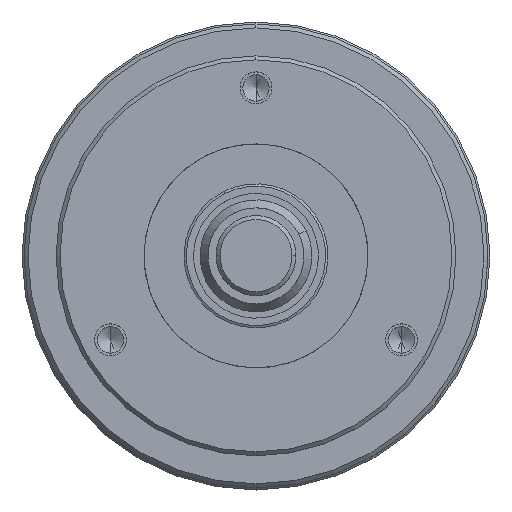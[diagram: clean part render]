
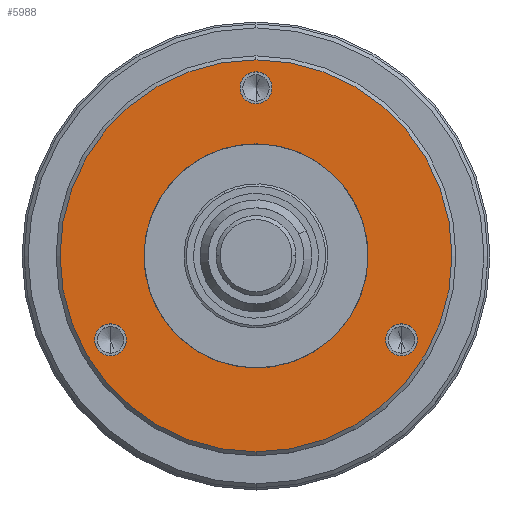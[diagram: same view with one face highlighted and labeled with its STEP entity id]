
A CAD part, top view. The second image highlights one B-rep face of the part: STEP entity #5988.
In plain terms, the highlighted planar face has unit normal (0, 0, 1).
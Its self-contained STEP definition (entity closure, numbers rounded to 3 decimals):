
#91 = DIRECTION ( 'NONE',  ( 0., 0., 1. ) ) ;
#209 = DIRECTION ( 'NONE',  ( 0., -1., 0. ) ) ;
#229 = DIRECTION ( 'NONE',  ( 0., 1., 0. ) ) ;
#256 = CARTESIAN_POINT ( 'NONE',  ( -18.187, -8.5, 0. ) ) ;
#275 = CIRCLE ( 'NONE', #2741, 14. ) ;
#412 = CIRCLE ( 'NONE', #7805, 24.5 ) ;
#430 = ORIENTED_EDGE ( 'NONE', *, *, #6214, .F. ) ;
#638 = DIRECTION ( 'NONE',  ( 0., -1., 0. ) ) ;
#751 = CARTESIAN_POINT ( 'NONE',  ( 0., 0., 0. ) ) ;
#893 = VERTEX_POINT ( 'NONE', #12119 ) ;
#1257 = CARTESIAN_POINT ( 'NONE',  ( 0., 24.5, 0. ) ) ;
#1272 = FACE_OUTER_BOUND ( 'NONE', #9454, .T. ) ;
#1308 = CARTESIAN_POINT ( 'NONE',  ( 18.187, -10.5, 0. ) ) ;
#1794 = EDGE_CURVE ( 'NONE', #7787, #20449, #4365, .T. ) ;
#2320 = AXIS2_PLACEMENT_3D ( 'NONE', #1308, #12545, #2905 ) ;
#2353 = DIRECTION ( 'NONE',  ( 0., 1., 0. ) ) ;
#2716 = EDGE_CURVE ( 'NONE', #20031, #4901, #12343, .T. ) ;
#2741 = AXIS2_PLACEMENT_3D ( 'NONE', #16385, #6740, #18018 ) ;
#2872 = CIRCLE ( 'NONE', #16990, 24.5 ) ;
#2905 = DIRECTION ( 'NONE',  ( 0., 1., 0. ) ) ;
#3112 = DIRECTION ( 'NONE',  ( 0., 0., 1. ) ) ;
#3129 = AXIS2_PLACEMENT_3D ( 'NONE', #19119, #9470, #20720 ) ;
#3677 = EDGE_LOOP ( 'NONE', ( #11132, #13255 ) ) ;
#3771 = EDGE_CURVE ( 'NONE', #11583, #893, #13044, .T. ) ;
#4365 = CIRCLE ( 'NONE', #13357, 2. ) ;
#4457 = AXIS2_PLACEMENT_3D ( 'NONE', #12753, #3112, #14363 ) ;
#4660 = ORIENTED_EDGE ( 'NONE', *, *, #1794, .F. ) ;
#4901 = VERTEX_POINT ( 'NONE', #14750 ) ;
#5472 = VERTEX_POINT ( 'NONE', #1257 ) ;
#5547 = FACE_BOUND ( 'NONE', #3677, .T. ) ;
#5988 = ADVANCED_FACE ( 'NONE', ( #1272, #13588, #5547, #9324, #17888 ), #11795, .F. ) ;
#6214 = EDGE_CURVE ( 'NONE', #20449, #7787, #13808, .T. ) ;
#6398 = CARTESIAN_POINT ( 'NONE',  ( 0., -24.5, 0. ) ) ;
#6740 = DIRECTION ( 'NONE',  ( 0., 0., 1. ) ) ;
#7033 = EDGE_CURVE ( 'NONE', #4901, #20031, #20466, .T. ) ;
#7295 = CARTESIAN_POINT ( 'NONE',  ( 18.187, -12.5, 0. ) ) ;
#7386 = CARTESIAN_POINT ( 'NONE',  ( -18.187, -10.5, 0. ) ) ;
#7787 = VERTEX_POINT ( 'NONE', #13440 ) ;
#7805 = AXIS2_PLACEMENT_3D ( 'NONE', #19490, #9839, #209 ) ;
#7816 = AXIS2_PLACEMENT_3D ( 'NONE', #751, #11974, #2353 ) ;
#8442 = AXIS2_PLACEMENT_3D ( 'NONE', #19511, #9864, #229 ) ;
#8475 = CARTESIAN_POINT ( 'NONE',  ( 0., 21., 0. ) ) ;
#8810 = ORIENTED_EDGE ( 'NONE', *, *, #3771, .F. ) ;
#8959 = EDGE_CURVE ( 'NONE', #893, #11583, #275, .T. ) ;
#9010 = DIRECTION ( 'NONE',  ( 0., 1., 0. ) ) ;
#9089 = VERTEX_POINT ( 'NONE', #7295 ) ;
#9221 = CIRCLE ( 'NONE', #2320, 2. ) ;
#9324 = FACE_BOUND ( 'NONE', #19203, .T. ) ;
#9454 = EDGE_LOOP ( 'NONE', ( #10166, #19917 ) ) ;
#9470 = DIRECTION ( 'NONE',  ( 0., 0., 1. ) ) ;
#9712 = CARTESIAN_POINT ( 'NONE',  ( 0., 0., 0. ) ) ;
#9839 = DIRECTION ( 'NONE',  ( 0., 0., 1. ) ) ;
#9864 = DIRECTION ( 'NONE',  ( 0., 0., 1. ) ) ;
#10085 = DIRECTION ( 'NONE',  ( 0., 1., 0. ) ) ;
#10166 = ORIENTED_EDGE ( 'NONE', *, *, #14439, .T. ) ;
#10269 = DIRECTION ( 'NONE',  ( 0., 0., -1. ) ) ;
#10695 = VERTEX_POINT ( 'NONE', #6398 ) ;
#10958 = CARTESIAN_POINT ( 'NONE',  ( 0., 19., 0. ) ) ;
#11132 = ORIENTED_EDGE ( 'NONE', *, *, #7033, .F. ) ;
#11316 = DIRECTION ( 'NONE',  ( 0., -1., 0. ) ) ;
#11492 = AXIS2_PLACEMENT_3D ( 'NONE', #19905, #10269, #638 ) ;
#11583 = VERTEX_POINT ( 'NONE', #12255 ) ;
#11795 = PLANE ( 'NONE',  #11492 ) ;
#11974 = DIRECTION ( 'NONE',  ( 0., 0., 1. ) ) ;
#12119 = CARTESIAN_POINT ( 'NONE',  ( 0., -14., 0. ) ) ;
#12255 = CARTESIAN_POINT ( 'NONE',  ( 0., 14., 0. ) ) ;
#12343 = CIRCLE ( 'NONE', #13036, 2. ) ;
#12363 = ORIENTED_EDGE ( 'NONE', *, *, #17995, .F. ) ;
#12545 = DIRECTION ( 'NONE',  ( 0., 0., 1. ) ) ;
#12753 = CARTESIAN_POINT ( 'NONE',  ( 18.187, -10.5, 0. ) ) ;
#13036 = AXIS2_PLACEMENT_3D ( 'NONE', #8475, #19720, #10085 ) ;
#13044 = CIRCLE ( 'NONE', #7816, 14. ) ;
#13255 = ORIENTED_EDGE ( 'NONE', *, *, #2716, .F. ) ;
#13357 = AXIS2_PLACEMENT_3D ( 'NONE', #7386, #18647, #9010 ) ;
#13440 = CARTESIAN_POINT ( 'NONE',  ( -18.187, -12.5, 0. ) ) ;
#13526 = ORIENTED_EDGE ( 'NONE', *, *, #8959, .F. ) ;
#13588 = FACE_BOUND ( 'NONE', #17240, .T. ) ;
#13725 = ORIENTED_EDGE ( 'NONE', *, *, #17708, .F. ) ;
#13769 = EDGE_CURVE ( 'NONE', #5472, #10695, #412, .T. ) ;
#13808 = CIRCLE ( 'NONE', #3129, 2. ) ;
#14363 = DIRECTION ( 'NONE',  ( 0., 1., 0. ) ) ;
#14439 = EDGE_CURVE ( 'NONE', #10695, #5472, #2872, .T. ) ;
#14750 = CARTESIAN_POINT ( 'NONE',  ( 0., 23., 0. ) ) ;
#15626 = CARTESIAN_POINT ( 'NONE',  ( 18.187, -8.5, 0. ) ) ;
#16263 = CIRCLE ( 'NONE', #4457, 2. ) ;
#16385 = CARTESIAN_POINT ( 'NONE',  ( 0., 0., 0. ) ) ;
#16990 = AXIS2_PLACEMENT_3D ( 'NONE', #9712, #91, #11316 ) ;
#17240 = EDGE_LOOP ( 'NONE', ( #12363, #13725 ) ) ;
#17708 = EDGE_CURVE ( 'NONE', #9089, #19502, #9221, .T. ) ;
#17888 = FACE_BOUND ( 'NONE', #18555, .T. ) ;
#17995 = EDGE_CURVE ( 'NONE', #19502, #9089, #16263, .T. ) ;
#18018 = DIRECTION ( 'NONE',  ( 0., 1., 0. ) ) ;
#18555 = EDGE_LOOP ( 'NONE', ( #8810, #13526 ) ) ;
#18647 = DIRECTION ( 'NONE',  ( 0., 0., 1. ) ) ;
#19119 = CARTESIAN_POINT ( 'NONE',  ( -18.187, -10.5, 0. ) ) ;
#19203 = EDGE_LOOP ( 'NONE', ( #430, #4660 ) ) ;
#19490 = CARTESIAN_POINT ( 'NONE',  ( 0., 0., 0. ) ) ;
#19502 = VERTEX_POINT ( 'NONE', #15626 ) ;
#19511 = CARTESIAN_POINT ( 'NONE',  ( 0., 21., 0. ) ) ;
#19720 = DIRECTION ( 'NONE',  ( 0., 0., 1. ) ) ;
#19905 = CARTESIAN_POINT ( 'NONE',  ( -14., 0., 0. ) ) ;
#19917 = ORIENTED_EDGE ( 'NONE', *, *, #13769, .T. ) ;
#20031 = VERTEX_POINT ( 'NONE', #10958 ) ;
#20449 = VERTEX_POINT ( 'NONE', #256 ) ;
#20466 = CIRCLE ( 'NONE', #8442, 2. ) ;
#20720 = DIRECTION ( 'NONE',  ( 0., 1., 0. ) ) ;
